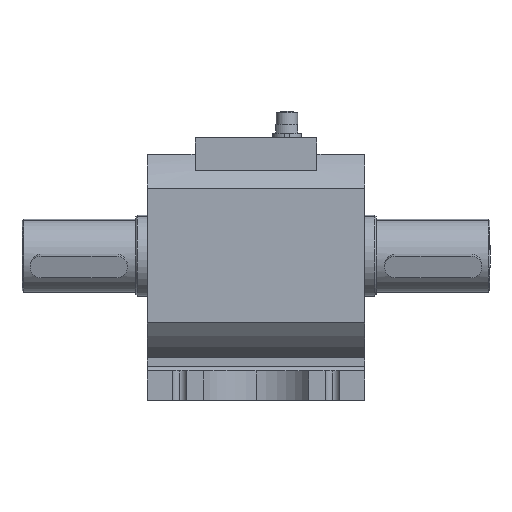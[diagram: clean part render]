
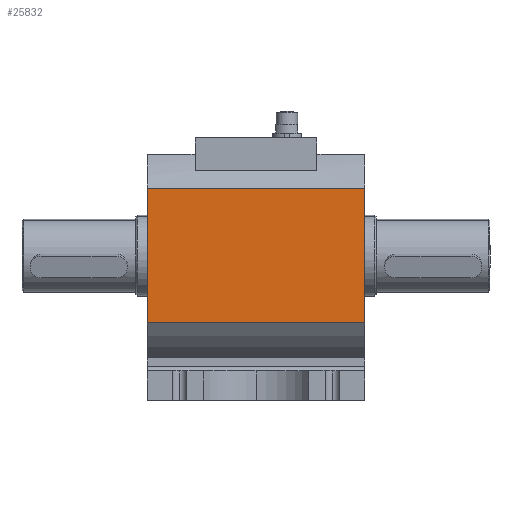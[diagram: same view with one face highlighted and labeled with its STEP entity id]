
A CAD part, top view. The second image highlights one B-rep face of the part: STEP entity #25832.
In plain terms, the highlighted planar face has unit normal (0, 0, 1).
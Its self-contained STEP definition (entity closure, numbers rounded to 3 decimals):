
#824 = EDGE_CURVE ( 'NONE', #8280, #6120, #24548, .T. ) ;
#1607 = DIRECTION ( 'NONE',  ( 0., 0., -1. ) ) ;
#1819 = CARTESIAN_POINT ( 'NONE',  ( -62.931, 37.798, 350.5 ) ) ;
#3848 = AXIS2_PLACEMENT_3D ( 'NONE', #22377, #1607, #12060 ) ;
#4788 = LINE ( 'NONE', #12830, #5239 ) ;
#5239 = VECTOR ( 'NONE', #21000, 1000. ) ;
#5476 = ORIENTED_EDGE ( 'NONE', *, *, #9520, .F. ) ;
#6120 = VERTEX_POINT ( 'NONE', #25356 ) ;
#6398 = VECTOR ( 'NONE', #20531, 1000. ) ;
#8280 = VERTEX_POINT ( 'NONE', #1819 ) ;
#8318 = PLANE ( 'NONE',  #3848 ) ;
#8877 = EDGE_CURVE ( 'NONE', #14317, #19451, #9971, .T. ) ;
#9520 = EDGE_CURVE ( 'NONE', #19451, #8280, #9874, .T. ) ;
#9874 = LINE ( 'NONE', #18037, #18276 ) ;
#9971 = LINE ( 'NONE', #16538, #14409 ) ;
#10197 = ORIENTED_EDGE ( 'NONE', *, *, #824, .F. ) ;
#10326 = FACE_OUTER_BOUND ( 'NONE', #19964, .T. ) ;
#12060 = DIRECTION ( 'NONE',  ( 1., 0., 0. ) ) ;
#12830 = CARTESIAN_POINT ( 'NONE',  ( 71.069, 45.31, 350.5 ) ) ;
#14317 = VERTEX_POINT ( 'NONE', #17141 ) ;
#14409 = VECTOR ( 'NONE', #24707, 1000. ) ;
#16420 = ORIENTED_EDGE ( 'NONE', *, *, #17294, .T. ) ;
#16538 = CARTESIAN_POINT ( 'NONE',  ( 71.069, -45.117, 350.5 ) ) ;
#17141 = CARTESIAN_POINT ( 'NONE',  ( 71.069, -45.117, 350.5 ) ) ;
#17294 = EDGE_CURVE ( 'NONE', #14317, #6120, #4788, .T. ) ;
#18037 = CARTESIAN_POINT ( 'NONE',  ( -62.931, -3.66, 350.5 ) ) ;
#18261 = CARTESIAN_POINT ( 'NONE',  ( 71.069, 37.798, 350.5 ) ) ;
#18276 = VECTOR ( 'NONE', #19164, 1000. ) ;
#19164 = DIRECTION ( 'NONE',  ( 0., 1., 0. ) ) ;
#19451 = VERTEX_POINT ( 'NONE', #24906 ) ;
#19964 = EDGE_LOOP ( 'NONE', ( #16420, #10197, #5476, #26475 ) ) ;
#20531 = DIRECTION ( 'NONE',  ( 1., 0., 0. ) ) ;
#21000 = DIRECTION ( 'NONE',  ( 0., 1., 0. ) ) ;
#22377 = CARTESIAN_POINT ( 'NONE',  ( -183.931, 45.31, 350.5 ) ) ;
#24548 = LINE ( 'NONE', #18261, #6398 ) ;
#24707 = DIRECTION ( 'NONE',  ( -1., 0., 0. ) ) ;
#24906 = CARTESIAN_POINT ( 'NONE',  ( -62.931, -45.117, 350.5 ) ) ;
#25356 = CARTESIAN_POINT ( 'NONE',  ( 71.069, 37.798, 350.5 ) ) ;
#25832 = ADVANCED_FACE ( 'NONE', ( #10326 ), #8318, .F. ) ;
#26475 = ORIENTED_EDGE ( 'NONE', *, *, #8877, .F. ) ;
